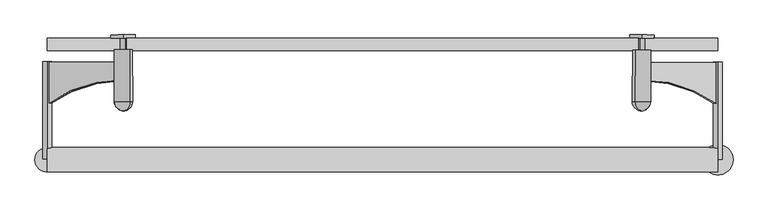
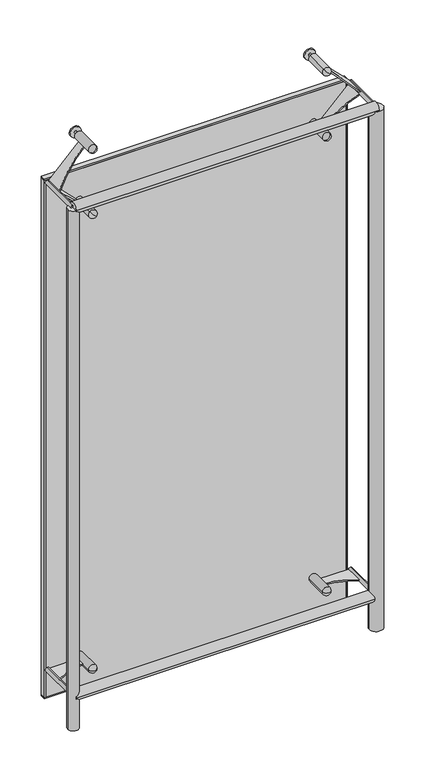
"""IFC4 building model written with IfcOpenShell, lengths in millimetres: plate geometry, FLATNING_TRYOUT : FLATNING_TRYOUT."""

from ifc_helpers import new_model, si_unit, point, frame, frame_2d, origin, origin_with_axes, place, context, project, spatial, polyline, circle_curve, ellipse_curve, trimmed, segment, composite_curve, outline, extrude, source, transform, mapped, element, save
from ifc_brep_helpers import plane_surface, cylinder_surface, revolved_surface, advanced_brep


def plate_331b9018(model_context):
    return source(origin(), model_context, "Body", "SolidModel", [
        extrude(outline(composite_curve([segment(polyline([(29.9999999, 0.0), (30.0, -177.0), (-40.0000001, -177.0)]), True, "CONTINUOUS"), segment(trimmed(circle_curve(frame_2d((-375.1980994, -8.2292431)), 375.2883348), [point((-40.0000001, -177.0))], [point((0.0, 0.0))], True, "CARTESIAN"), True, "CONTINUOUS"), segment(polyline([(0.0, 0.0), (29.9999999, 0.0)]), True, "CONTINUOUS")], self_intersect=False)), frame((424.1205053, -69.2674093, 2123.3901333), z_axis=(0.7070974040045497, -0.003641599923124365, 0.7071067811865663), x_axis=(0.005150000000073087, 0.9999867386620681, 0.0)), (0.0, 0.0, 1.0), 5.0),
        advanced_brep(
        [(426.2487488, 0.7225584, 2125.1579003), (429.7842358, 0.7043504, 2121.6223664), (422.7132618, 0.7407664, 2128.6934342), (415.5392877, -19.2225524, 2135.764502), (436.7522098, -19.3318004, 2114.5512986), (436.3144598, -104.3306732, 2114.5512986), (415.1015377, -104.2214252, 2135.764502), (422.6102618, -19.2589684, 2128.6934342), (429.6812358, -19.2953844, 2121.6223664), (425.6307488, -119.2758503, 2125.1579003)],
        [
            (0, 1),
            (1, 2, circle_curve(frame((426.2487488, 0.7225584, 2125.1579003), z_axis=(0.005150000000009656, 0.9999867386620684, 0.0), x_axis=(0.7070974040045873, -0.0036415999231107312, -0.7071067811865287)), 5.0)),
            (2, 0),
            (2, 1, circle_curve(frame((426.2487488, 0.7225584, 2125.1579003), z_axis=(0.005150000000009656, 0.9999867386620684, 0.0), x_axis=(0.7070974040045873, -0.0036415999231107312, -0.7071067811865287)), 5.0)),
            (3, 4, circle_curve(frame((426.1457488, -19.2771764, 2125.1579003), z_axis=(-0.005150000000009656, -0.9999867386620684, 0.0), x_axis=(0.7070974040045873, -0.0036415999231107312, -0.7071067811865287)), 15.0)),
            (4, 5),
            (5, 6, circle_curve(frame((425.7079988, -104.2760492, 2125.1579003), z_axis=(0.005150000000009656, 0.9999867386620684, 0.0), x_axis=(0.7070974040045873, -0.0036415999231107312, -0.7071067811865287)), 15.0)),
            (6, 3),
            (4, 3, circle_curve(frame((426.1457488, -19.2771764, 2125.1579003), z_axis=(-0.005150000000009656, -0.9999867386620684, 0.0), x_axis=(0.7070974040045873, -0.0036415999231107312, -0.7071067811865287)), 15.0)),
            (6, 5, circle_curve(frame((425.7079988, -104.2760492, 2125.1579003), z_axis=(0.005150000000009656, 0.9999867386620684, 0.0), x_axis=(0.7070974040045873, -0.0036415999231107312, -0.7071067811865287)), 15.0)),
            (7, 8, circle_curve(frame((426.1457488, -19.2771764, 2125.1579003), z_axis=(-0.005150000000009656, -0.9999867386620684, 0.0), x_axis=(0.7070974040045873, -0.0036415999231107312, -0.7071067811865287)), 5.0)),
            (8, 4),
            (3, 7),
            (8, 7, circle_curve(frame((426.1457488, -19.2771764, 2125.1579003), z_axis=(-0.005150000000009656, -0.9999867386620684, 0.0), x_axis=(0.7070974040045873, -0.0036415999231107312, -0.7071067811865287)), 5.0)),
            (1, 8),
            (7, 2),
            (5, 9, circle_curve(frame((425.7079988, -104.2760492, 2125.1579003), z_axis=(-0.7070974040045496, 0.0036415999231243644, -0.7071067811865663), x_axis=(0.7070974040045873, -0.0036415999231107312, -0.7071067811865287)), 15.0)),
            (9, 6, circle_curve(frame((425.7079988, -104.2760492, 2125.1579003), z_axis=(-0.7070974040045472, 0.0036415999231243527, -0.7071067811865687), x_axis=(-0.7070974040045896, 0.003641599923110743, 0.7071067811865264)), 15.0)),
        ],
        [
            plane_surface(frame((426.2487488, 0.7225584, 2125.1579003), z_axis=(0.005150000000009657, 0.9999867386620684, 0.0), x_axis=(0.7070974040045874, -0.0036415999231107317, -0.7071067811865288))),
            cylinder_surface(frame((428.9782488, 530.7155299, 2125.1579003), z_axis=(0.005150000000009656, 0.9999867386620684, 0.0), x_axis=(0.7070974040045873, -0.0036415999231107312, -0.7071067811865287)), 15.0),
            plane_surface(frame((426.1457488, -19.2771764, 2125.1579003), z_axis=(0.005150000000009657, 0.9999867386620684, 0.0), x_axis=(0.7070974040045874, -0.0036415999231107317, -0.7071067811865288))),
            cylinder_surface(frame((428.9782488, 530.7155299, 2125.1579003), z_axis=(0.005150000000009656, 0.9999867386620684, 0.0), x_axis=(0.7070974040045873, -0.0036415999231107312, -0.7071067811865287)), 5.0),
            revolved_surface(trimmed(ellipse_curve(frame((425.7079988, -104.2760492, 2125.1579003), z_axis=(0.7070974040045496, -0.0036415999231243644, 0.7071067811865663), x_axis=(0.7070974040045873, -0.0036415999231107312, -0.7071067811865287)), 15.0, 15.0), [point((425.6307488, -119.2758503, 2125.1579003))], [point((436.3144598, -104.3306732, 2114.5512986))], True, "CARTESIAN"), (428.9782488, 530.7155299, 2125.1579003), (0.005150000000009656, 0.9999867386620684, 0.0)),
        ],
        [
            (0, [[1, 2, 3]]),
            (0, [[-3, 4, -1]]),
            (1, [[5, 6, 7, 8]]),
            (1, [[9, -8, 10, -6]]),
            (2, [[11, 12, -5, 13]]),
            (2, [[14, -13, -9, -12]]),
            (3, [[-2, 15, -11, 16]]),
            (3, [[-4, -16, -14, -15]]),
            (4, [[-7, 17, 18]]),
            (4, [[-10, -18, -17]]),
        ],
    ),
        extrude(outline(composite_curve([segment(polyline([(-30.0, 0.0), (0.0, 0.0)]), True, "CONTINUOUS"), segment(trimmed(circle_curve(frame_2d((375.1980994, -8.2292431)), 375.2883348), [point((0.0, 0.0))], [point((40.0, -177.0))], True, "CARTESIAN"), True, "CONTINUOUS"), segment(polyline([(40.0, -177.0), (-30.0, -177.0), (-30.0, 0.0)]), True, "CONTINUOUS")], self_intersect=False)), frame((-424.1175857, -68.8109905, 2123.3901333), z_axis=(-0.7070974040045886, -0.003641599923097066, 0.7071067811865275), x_axis=(0.005150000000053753, -0.9999867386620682, 0.0)), (0.0, 0.0, 1.0), 5.0),
        advanced_brep(
        [(-426.2458292, 1.1789772, 2125.1579003), (-429.7813162, 1.1607692, 2121.6223664), (-422.7103422, 1.1971852, 2128.6934342), (-415.5363681, -18.7661336, 2135.764502), (-436.7492903, -18.8753816, 2114.5512986), (-436.3115403, -103.8742543, 2114.5512986), (-415.0986181, -103.7650063, 2135.764502), (-422.6073422, -18.8025496, 2128.6934342), (-429.6783162, -18.8389656, 2121.6223664), (-425.6278292, -118.8194314, 2125.1579003)],
        [
            (0, 1),
            (1, 2, circle_curve(frame((-426.2458292, 1.1789772, 2125.1579003), z_axis=(-0.005149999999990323, 0.9999867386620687, 0.0), x_axis=(-0.7070974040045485, -0.0036415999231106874, -0.7071067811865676)), 5.0)),
            (2, 0),
            (2, 1, circle_curve(frame((-426.2458292, 1.1789772, 2125.1579003), z_axis=(-0.005149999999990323, 0.9999867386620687, 0.0), x_axis=(-0.7070974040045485, -0.0036415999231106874, -0.7071067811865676)), 5.0)),
            (3, 4, circle_curve(frame((-426.1428292, -18.8207576, 2125.1579003), z_axis=(0.005149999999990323, -0.9999867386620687, 0.0), x_axis=(-0.7070974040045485, -0.0036415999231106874, -0.7071067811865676)), 15.0)),
            (4, 5),
            (5, 6, circle_curve(frame((-425.7050792, -103.8196303, 2125.1579003), z_axis=(-0.005149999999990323, 0.9999867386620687, 0.0), x_axis=(-0.7070974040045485, -0.0036415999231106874, -0.7071067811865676)), 15.0)),
            (6, 3),
            (4, 3, circle_curve(frame((-426.1428292, -18.8207576, 2125.1579003), z_axis=(0.005149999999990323, -0.9999867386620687, 0.0), x_axis=(-0.7070974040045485, -0.0036415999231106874, -0.7071067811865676)), 15.0)),
            (6, 5, circle_curve(frame((-425.7050792, -103.8196303, 2125.1579003), z_axis=(-0.005149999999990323, 0.9999867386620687, 0.0), x_axis=(-0.7070974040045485, -0.0036415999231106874, -0.7071067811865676)), 15.0)),
            (7, 8, circle_curve(frame((-426.1428292, -18.8207576, 2125.1579003), z_axis=(0.005149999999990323, -0.9999867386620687, 0.0), x_axis=(-0.7070974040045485, -0.0036415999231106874, -0.7071067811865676)), 5.0)),
            (8, 4),
            (3, 7),
            (8, 7, circle_curve(frame((-426.1428292, -18.8207576, 2125.1579003), z_axis=(0.005149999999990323, -0.9999867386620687, 0.0), x_axis=(-0.7070974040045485, -0.0036415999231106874, -0.7071067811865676)), 5.0)),
            (1, 8),
            (7, 2),
            (5, 9, circle_curve(frame((-425.7050792, -103.8196303, 2125.1579003), z_axis=(-0.7070974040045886, -0.003641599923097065, 0.7071067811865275), x_axis=(-0.7070974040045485, -0.0036415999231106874, -0.7071067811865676)), 15.0)),
            (9, 6, circle_curve(frame((-425.7050792, -103.8196303, 2125.1579003), z_axis=(-0.707097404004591, -0.0036415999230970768, 0.7071067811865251), x_axis=(0.7070974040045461, 0.0036415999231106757, 0.7071067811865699)), 15.0)),
        ],
        [
            plane_surface(frame((-426.2458292, 1.1789772, 2125.1579003), z_axis=(-0.005149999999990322, 0.9999867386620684, 0.0), x_axis=(-0.7070974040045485, -0.0036415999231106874, -0.7071067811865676))),
            cylinder_surface(frame((-428.9753292, 531.1719487, 2125.1579003), z_axis=(-0.005149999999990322, 0.9999867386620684, 0.0), x_axis=(-0.7070974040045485, -0.0036415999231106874, -0.7071067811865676)), 15.0),
            plane_surface(frame((-426.1428292, -18.8207576, 2125.1579003), z_axis=(-0.005149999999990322, 0.9999867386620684, 0.0), x_axis=(-0.7070974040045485, -0.0036415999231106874, -0.7071067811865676))),
            cylinder_surface(frame((-428.9753292, 531.1719487, 2125.1579003), z_axis=(-0.005149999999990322, 0.9999867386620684, 0.0), x_axis=(-0.7070974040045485, -0.0036415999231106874, -0.7071067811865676)), 5.0),
            revolved_surface(trimmed(ellipse_curve(frame((-425.7050792, -103.8196303, 2125.1579003), z_axis=(0.7070974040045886, 0.003641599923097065, -0.7071067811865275), x_axis=(-0.7070974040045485, -0.0036415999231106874, -0.7071067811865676)), 15.0, 15.0), [point((-425.6278292, -118.8194314, 2125.1579003))], [point((-436.3115403, -103.8742543, 2114.5512986))], True, "CARTESIAN"), (-428.9753292, 531.1719487, 2125.1579003), (-0.005149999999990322, 0.9999867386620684, 0.0)),
        ],
        [
            (0, [[1, 2, 3]]),
            (0, [[-3, 4, -1]]),
            (1, [[5, 6, 7, 8]]),
            (1, [[9, -8, 10, -6]]),
            (2, [[11, 12, -5, 13]]),
            (2, [[14, -13, -9, -12]]),
            (3, [[-2, 15, -11, 16]]),
            (3, [[-4, -16, -14, -15]]),
            (4, [[-7, 17, 18]]),
            (4, [[-10, -18, -17]]),
        ],
    ),
        extrude(outline(composite_curve([segment(polyline([(30.0, 0.0), (30.0, -176.9999999), (-40.0, -176.9999999)]), True, "CONTINUOUS"), segment(trimmed(circle_curve(frame_2d((-375.1980994, -8.2292431)), 375.2883348), [point((-40.0, -176.9999999))], [point((0.0, 0.0))], True, "CARTESIAN"), True, "CONTINUOUS"), segment(polyline([(0.0, 0.0), (30.0, 0.0)]), True, "CONTINUOUS")], self_intersect=False)), frame((427.6558312, -69.2856165, 1873.0743328), z_axis=(-0.7070974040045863, 0.0036415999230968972, 0.7071067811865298), x_axis=(0.005150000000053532, 0.9999867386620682, 0.0)), (0.0, 0.0, 1.0), 5.0),
        advanced_brep(
        [(426.2485877, 0.7225592, 1874.8420997), (429.7840747, 0.7043512, 1878.3776336), (422.7131006, 0.7407672, 1871.3065658), (415.5391266, -19.2225516, 1864.235498), (436.7520487, -19.3317996, 1885.4487014), (436.3142987, -104.3306723, 1885.4487014), (415.1013766, -104.2214243, 1864.235498), (422.6101006, -19.2589676, 1871.3065658), (429.6810747, -19.2953836, 1878.3776336), (425.6305877, -119.2758494, 1874.8420997)],
        [
            (0, 1),
            (1, 2, circle_curve(frame((426.2485877, 0.7225592, 1874.8420997), z_axis=(0.005149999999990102, 0.9999867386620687, 0.0), x_axis=(0.7070974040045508, -0.0036415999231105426, 0.7071067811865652)), 5.0)),
            (2, 0),
            (2, 1, circle_curve(frame((426.2485877, 0.7225592, 1874.8420997), z_axis=(0.005149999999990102, 0.9999867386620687, 0.0), x_axis=(0.7070974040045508, -0.0036415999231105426, 0.7071067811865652)), 5.0)),
            (3, 4, circle_curve(frame((426.1455877, -19.2771756, 1874.8420997), z_axis=(-0.005149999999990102, -0.9999867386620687, 0.0), x_axis=(0.7070974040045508, -0.0036415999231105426, 0.7071067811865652)), 15.0)),
            (4, 5),
            (5, 6, circle_curve(frame((425.7078377, -104.2760483, 1874.8420997), z_axis=(0.005149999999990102, 0.9999867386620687, 0.0), x_axis=(0.7070974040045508, -0.0036415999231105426, 0.7071067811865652)), 15.0)),
            (6, 3),
            (4, 3, circle_curve(frame((426.1455877, -19.2771756, 1874.8420997), z_axis=(-0.005149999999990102, -0.9999867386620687, 0.0), x_axis=(0.7070974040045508, -0.0036415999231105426, 0.7071067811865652)), 15.0)),
            (6, 5, circle_curve(frame((425.7078377, -104.2760483, 1874.8420997), z_axis=(0.005149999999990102, 0.9999867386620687, 0.0), x_axis=(0.7070974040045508, -0.0036415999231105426, 0.7071067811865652)), 15.0)),
            (7, 8, circle_curve(frame((426.1455877, -19.2771756, 1874.8420997), z_axis=(-0.005149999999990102, -0.9999867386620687, 0.0), x_axis=(0.7070974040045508, -0.0036415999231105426, 0.7071067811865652)), 5.0)),
            (8, 4),
            (3, 7),
            (8, 7, circle_curve(frame((426.1455877, -19.2771756, 1874.8420997), z_axis=(-0.005149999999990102, -0.9999867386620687, 0.0), x_axis=(0.7070974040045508, -0.0036415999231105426, 0.7071067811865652)), 5.0)),
            (1, 8),
            (7, 2),
            (5, 9, circle_curve(frame((425.7078377, -104.2760483, 1874.8420997), z_axis=(0.7070974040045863, -0.0036415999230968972, -0.7071067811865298), x_axis=(0.7070974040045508, -0.0036415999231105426, 0.7071067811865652)), 15.0)),
            (9, 6, circle_curve(frame((425.7078377, -104.2760483, 1874.8420997), z_axis=(0.7070974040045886, -0.003641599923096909, -0.7071067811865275), x_axis=(-0.7070974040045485, 0.003641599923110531, -0.7071067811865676)), 15.0)),
        ],
        [
            plane_surface(frame((426.2485877, 0.7225592, 1874.8420997), z_axis=(0.005149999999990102, 0.9999867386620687, 0.0), x_axis=(0.7070974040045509, -0.003641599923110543, 0.7071067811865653))),
            cylinder_surface(frame((428.9780877, 530.7155307, 1874.8420997), z_axis=(0.005149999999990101, 0.9999867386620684, 0.0), x_axis=(0.7070974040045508, -0.0036415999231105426, 0.7071067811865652)), 15.0),
            plane_surface(frame((426.1455877, -19.2771756, 1874.8420997), z_axis=(0.005149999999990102, 0.9999867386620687, 0.0), x_axis=(0.7070974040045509, -0.003641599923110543, 0.7071067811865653))),
            cylinder_surface(frame((428.9780877, 530.7155307, 1874.8420997), z_axis=(0.005149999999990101, 0.9999867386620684, 0.0), x_axis=(0.7070974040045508, -0.0036415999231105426, 0.7071067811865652)), 5.0),
            revolved_surface(trimmed(ellipse_curve(frame((425.7078377, -104.2760483, 1874.8420997), z_axis=(-0.7070974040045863, 0.0036415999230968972, 0.7071067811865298), x_axis=(0.7070974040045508, -0.0036415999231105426, 0.7071067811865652)), 15.0, 15.0), [point((425.6305877, -119.2758494, 1874.8420997))], [point((436.3142987, -104.3306723, 1885.4487014))], True, "CARTESIAN"), (428.9780877, 530.7155307, 1874.8420997), (0.005149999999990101, 0.9999867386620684, 0.0)),
        ],
        [
            (0, [[1, 2, 3]]),
            (0, [[-3, 4, -1]]),
            (1, [[5, 6, 7, 8]]),
            (1, [[9, -8, 10, -6]]),
            (2, [[11, 12, -5, 13]]),
            (2, [[14, -13, -9, -12]]),
            (3, [[-2, 15, -11, 16]]),
            (3, [[-4, -16, -14, -15]]),
            (4, [[-7, 17, 18]]),
            (4, [[-10, -18, -17]]),
        ],
    ),
        extrude(outline(composite_curve([segment(polyline([(30.0, 0.0), (0.0, 0.0)]), True, "CONTINUOUS"), segment(trimmed(circle_curve(frame_2d((-375.1980994, 8.2292431)), 375.2883348), [point((0.0, 0.0))], [point((-40.0, 176.9999999))], True, "CARTESIAN"), True, "CONTINUOUS"), segment(polyline([(-40.0, 176.9999999), (30.0, 176.9999999), (30.0, 0.0)]), True, "CONTINUOUS")], self_intersect=False)), frame((-427.6558312, -69.2856165, 1873.0743328), z_axis=(0.7070974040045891, 0.003641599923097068, 0.707106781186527), x_axis=(-0.005150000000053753, 0.9999867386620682, 0.0)), (0.0, 0.0, 1.0), 5.0),
        advanced_brep(
        [(-426.2485877, 0.7225592, 1874.8420997), (-422.7131006, 0.7407672, 1871.3065658), (-429.7840747, 0.7043512, 1878.3776336), (-415.5391266, -19.2225516, 1864.235498), (-415.1013766, -104.2214243, 1864.235498), (-436.3142987, -104.3306723, 1885.4487014), (-436.7520487, -19.3317996, 1885.4487014), (-422.6101006, -19.2589676, 1871.3065658), (-429.6810747, -19.2953836, 1878.3776336), (-425.6305877, -119.2758494, 1874.8420997)],
        [
            (0, 1),
            (1, 2, circle_curve(frame((-426.2485877, 0.7225592, 1874.8420997), z_axis=(-0.005149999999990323, 0.9999867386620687, 0.0), x_axis=(-0.707097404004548, -0.003641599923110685, 0.707106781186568)), 5.0)),
            (2, 0),
            (2, 1, circle_curve(frame((-426.2485877, 0.7225592, 1874.8420997), z_axis=(-0.005149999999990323, 0.9999867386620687, 0.0), x_axis=(-0.707097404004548, -0.003641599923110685, 0.707106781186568)), 5.0)),
            (3, 4),
            (4, 5, circle_curve(frame((-425.7078377, -104.2760483, 1874.8420997), z_axis=(-0.005149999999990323, 0.9999867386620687, 0.0), x_axis=(-0.707097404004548, -0.003641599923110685, 0.707106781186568)), 15.0)),
            (5, 6),
            (6, 3, circle_curve(frame((-426.1455877, -19.2771756, 1874.8420997), z_axis=(0.005149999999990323, -0.9999867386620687, 0.0), x_axis=(-0.707097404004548, -0.003641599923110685, 0.707106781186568)), 15.0)),
            (5, 4, circle_curve(frame((-425.7078377, -104.2760483, 1874.8420997), z_axis=(-0.005149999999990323, 0.9999867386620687, 0.0), x_axis=(-0.707097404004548, -0.003641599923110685, 0.707106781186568)), 15.0)),
            (3, 6, circle_curve(frame((-426.1455877, -19.2771756, 1874.8420997), z_axis=(0.005149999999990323, -0.9999867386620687, 0.0), x_axis=(-0.707097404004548, -0.003641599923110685, 0.707106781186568)), 15.0)),
            (7, 3),
            (6, 8),
            (8, 7, circle_curve(frame((-426.1455877, -19.2771756, 1874.8420997), z_axis=(0.005149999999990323, -0.9999867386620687, 0.0), x_axis=(-0.707097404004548, -0.003641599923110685, 0.707106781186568)), 5.0)),
            (7, 8, circle_curve(frame((-426.1455877, -19.2771756, 1874.8420997), z_axis=(0.005149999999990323, -0.9999867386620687, 0.0), x_axis=(-0.707097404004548, -0.003641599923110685, 0.707106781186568)), 5.0)),
            (1, 7),
            (8, 2),
            (4, 9, circle_curve(frame((-425.7078377, -104.2760483, 1874.8420997), z_axis=(-0.7070974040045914, -0.0036415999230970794, -0.7071067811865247), x_axis=(0.7070974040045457, 0.003641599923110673, -0.7071067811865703)), 15.0)),
            (9, 5, circle_curve(frame((-425.7078377, -104.2760483, 1874.8420997), z_axis=(-0.7070974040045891, -0.0036415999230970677, -0.707106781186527), x_axis=(-0.707097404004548, -0.003641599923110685, 0.707106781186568)), 15.0)),
        ],
        [
            plane_surface(frame((-426.2485877, 0.7225592, 1874.8420997), z_axis=(-0.005149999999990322, 0.9999867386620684, 0.0), x_axis=(-0.707097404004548, -0.003641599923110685, 0.707106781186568))),
            cylinder_surface(frame((-428.9780877, 530.7155307, 1874.8420997), z_axis=(-0.005149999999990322, 0.9999867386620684, 0.0), x_axis=(-0.707097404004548, -0.003641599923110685, 0.707106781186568)), 15.0),
            plane_surface(frame((-426.1455877, -19.2771756, 1874.8420997), z_axis=(-0.005149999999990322, 0.9999867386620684, 0.0), x_axis=(-0.707097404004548, -0.003641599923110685, 0.707106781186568))),
            cylinder_surface(frame((-428.9780877, 530.7155307, 1874.8420997), z_axis=(-0.005149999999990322, 0.9999867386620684, 0.0), x_axis=(-0.707097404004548, -0.003641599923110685, 0.707106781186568)), 5.0),
            revolved_surface(trimmed(ellipse_curve(frame((-425.7078377, -104.2760483, 1874.8420997), z_axis=(-0.7070974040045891, -0.0036415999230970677, -0.707106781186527), x_axis=(-0.707097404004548, -0.003641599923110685, 0.707106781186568)), 15.0, 15.0), [point((-425.6305877, -119.2758494, 1874.8420997))], [point((-436.3142987, -104.3306723, 1885.4487014))], True, "CARTESIAN"), (-428.9780877, 530.7155307, 1874.8420997), (-0.005149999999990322, 0.9999867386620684, 0.0)),
        ],
        [
            (0, [[1, 2, 3]]),
            (0, [[-3, 4, -1]]),
            (1, [[5, 6, 7, 8]]),
            (1, [[-7, 9, -5, 10]]),
            (2, [[11, -8, 12, 13]]),
            (2, [[-12, -10, -11, 14]]),
            (3, [[15, -13, 16, -2]]),
            (3, [[-16, -14, -15, -4]]),
            (4, [[17, 18, -6]]),
            (4, [[-18, -17, -9]]),
        ],
    ),
        extrude(outline(composite_curve([segment(polyline([(426.2004859, -38.8213197), (551.1988282, -39.4650697), (550.8383282, -109.4641414)]), True, "CONTINUOUS"), segment(trimmed(circle_curve(frame_2d((420.6636817, -297.2518988)), 228.4943772), [point((550.8383282, -109.4641414))], [point((426.0459859, -68.8209219))], True, "CARTESIAN"), True, "CONTINUOUS"), segment(polyline([(426.0459859, -68.8209219), (426.2004859, -38.8213197)]), True, "CONTINUOUS")], self_intersect=False)), frame((0.0, 0.0, 122.5), z_axis=(0.0, 0.0, 1.0), x_axis=(1.0, 0.0, 0.0)), (0.0, 0.0, 1.0), 5.0),
        advanced_brep(
        [(426.4064859, 1.1781498, 125.0), (431.4064196, 1.1523998, 125.0), (421.4065522, 1.2038998, 125.0), (411.3036848, -18.7443349, 125.0), (441.303287, -18.8988349, 125.0), (440.865537, -103.8977077, 125.0), (410.8659348, -103.7432077, 125.0), (421.3035522, -18.7958349, 125.0), (431.3034196, -18.8473349, 125.0), (425.7884859, -118.8202588, 125.0)],
        [
            (0, 1),
            (1, 2, circle_curve(frame((426.4064859, 1.1781498, 125.0), z_axis=(0.005149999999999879, 0.9999867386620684, 0.0), x_axis=(0.9999867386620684, -0.005149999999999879, 0.0)), 5.0)),
            (2, 0),
            (2, 1, circle_curve(frame((426.4064859, 1.1781498, 125.0), z_axis=(0.005149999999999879, 0.9999867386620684, 0.0), x_axis=(0.9999867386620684, -0.005149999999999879, 0.0)), 5.0)),
            (3, 4, circle_curve(frame((426.3034859, -18.8215849, 125.0), z_axis=(-0.005149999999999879, -0.9999867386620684, 0.0), x_axis=(0.9999867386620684, -0.005149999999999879, 0.0)), 15.0)),
            (4, 5),
            (5, 6, circle_curve(frame((425.8657359, -103.8204577, 125.0), z_axis=(0.005149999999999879, 0.9999867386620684, 0.0), x_axis=(0.9999867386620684, -0.005149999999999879, 0.0)), 15.0)),
            (6, 3),
            (4, 3, circle_curve(frame((426.3034859, -18.8215849, 125.0), z_axis=(-0.005149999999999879, -0.9999867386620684, 0.0), x_axis=(0.9999867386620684, -0.005149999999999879, 0.0)), 15.0)),
            (6, 5, circle_curve(frame((425.8657359, -103.8204577, 125.0), z_axis=(0.005149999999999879, 0.9999867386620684, 0.0), x_axis=(0.9999867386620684, -0.005149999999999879, 0.0)), 15.0)),
            (7, 8, circle_curve(frame((426.3034859, -18.8215849, 125.0), z_axis=(-0.005149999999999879, -0.9999867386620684, 0.0), x_axis=(0.9999867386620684, -0.005149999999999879, 0.0)), 5.0)),
            (8, 4),
            (3, 7),
            (8, 7, circle_curve(frame((426.3034859, -18.8215849, 125.0), z_axis=(-0.005149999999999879, -0.9999867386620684, 0.0), x_axis=(0.9999867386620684, -0.005149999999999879, 0.0)), 5.0)),
            (1, 8),
            (7, 2),
            (5, 9, circle_curve(frame((425.8657359, -103.8204577, 125.0), z_axis=(0.0, 0.0, -1.0), x_axis=(0.9999867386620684, -0.005149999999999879, 0.0)), 15.0)),
            (9, 6, circle_curve(frame((425.8657359, -103.8204577, 125.0), z_axis=(0.0, 0.0, -1.0), x_axis=(-0.9999867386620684, 0.005149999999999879, 0.0)), 15.0)),
        ],
        [
            plane_surface(frame((426.4064859, 1.1781498, 125.0), z_axis=(0.005149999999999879, 0.9999867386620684, 0.0), x_axis=(0.9999867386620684, -0.005149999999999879, 0.0))),
            cylinder_surface(frame((427.7197359, 256.1747682, 125.0), z_axis=(0.005149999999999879, 0.9999867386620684, 0.0), x_axis=(0.9999867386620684, -0.005149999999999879, 0.0)), 15.0),
            plane_surface(frame((426.3034859, -18.8215849, 125.0), z_axis=(0.005149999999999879, 0.9999867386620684, 0.0), x_axis=(0.9999867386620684, -0.005149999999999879, 0.0))),
            cylinder_surface(frame((427.7197359, 256.1747682, 125.0), z_axis=(0.005149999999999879, 0.9999867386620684, 0.0), x_axis=(0.9999867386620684, -0.005149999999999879, 0.0)), 5.0),
            revolved_surface(trimmed(ellipse_curve(frame((425.8657359, -103.8204577, 125.0), z_axis=(0.0, 0.0, 1.0), x_axis=(0.9999867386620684, -0.005149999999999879, 0.0)), 15.0, 15.0), [point((425.7884859, -118.8202588, 125.0))], [point((440.865537, -103.8977077, 125.0))], True, "CARTESIAN"), (427.7197359, 256.1747682, 125.0), (0.005149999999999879, 0.9999867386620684, 0.0)),
        ],
        [
            (0, [[1, 2, 3]]),
            (0, [[-3, 4, -1]]),
            (1, [[5, 6, 7, 8]]),
            (1, [[9, -8, 10, -6]]),
            (2, [[11, 12, -5, 13]]),
            (2, [[14, -13, -9, -12]]),
            (3, [[-2, 15, -11, 16]]),
            (3, [[-4, -16, -14, -15]]),
            (4, [[-7, 17, 18]]),
            (4, [[-10, -18, -17]]),
        ],
    ),
        extrude(outline(composite_curve([segment(polyline([(-426.2004859, -38.8213197), (-426.0459859, -68.8209219)]), True, "CONTINUOUS"), segment(trimmed(circle_curve(frame_2d((-420.6636817, -297.2518988)), 228.4943772), [point((-426.0459859, -68.8209219))], [point((-550.8383282, -109.4641414))], True, "CARTESIAN"), True, "CONTINUOUS"), segment(polyline([(-550.8383282, -109.4641414), (-551.1988282, -39.4650697), (-426.2004859, -38.8213197)]), True, "CONTINUOUS")], self_intersect=False)), frame((0.0, 0.0, 122.5), z_axis=(0.0, 0.0, 1.0), x_axis=(1.0, 0.0, 0.0)), (0.0, 0.0, 1.0), 5.0),
        advanced_brep(
        [(-426.4064859, 1.1781498, 125.0), (-431.4064196, 1.1523998, 125.0), (-421.4065522, 1.2038998, 125.0), (-411.3036848, -18.7443349, 125.0), (-441.303287, -18.8988349, 125.0), (-440.865537, -103.8977077, 125.0), (-410.8659348, -103.7432077, 125.0), (-421.3035522, -18.7958349, 125.0), (-431.3034196, -18.8473349, 125.0), (-425.7884859, -118.8202588, 125.0)],
        [
            (0, 1),
            (1, 2, circle_curve(frame((-426.4064859, 1.1781498, 125.0), z_axis=(-0.0051500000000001, 0.9999867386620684, 0.0), x_axis=(-0.9999867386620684, -0.0051500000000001, 0.0)), 5.0)),
            (2, 0),
            (2, 1, circle_curve(frame((-426.4064859, 1.1781498, 125.0), z_axis=(-0.0051500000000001, 0.9999867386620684, 0.0), x_axis=(-0.9999867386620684, -0.0051500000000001, 0.0)), 5.0)),
            (3, 4, circle_curve(frame((-426.3034859, -18.8215849, 125.0), z_axis=(0.0051500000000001, -0.9999867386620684, 0.0), x_axis=(-0.9999867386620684, -0.0051500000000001, 0.0)), 15.0)),
            (4, 5),
            (5, 6, circle_curve(frame((-425.8657359, -103.8204577, 125.0), z_axis=(-0.0051500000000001, 0.9999867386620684, 0.0), x_axis=(-0.9999867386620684, -0.0051500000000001, 0.0)), 15.0)),
            (6, 3),
            (4, 3, circle_curve(frame((-426.3034859, -18.8215849, 125.0), z_axis=(0.0051500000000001, -0.9999867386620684, 0.0), x_axis=(-0.9999867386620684, -0.0051500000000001, 0.0)), 15.0)),
            (6, 5, circle_curve(frame((-425.8657359, -103.8204577, 125.0), z_axis=(-0.0051500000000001, 0.9999867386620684, 0.0), x_axis=(-0.9999867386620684, -0.0051500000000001, 0.0)), 15.0)),
            (7, 8, circle_curve(frame((-426.3034859, -18.8215849, 125.0), z_axis=(0.0051500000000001, -0.9999867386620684, 0.0), x_axis=(-0.9999867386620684, -0.0051500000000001, 0.0)), 5.0)),
            (8, 4),
            (3, 7),
            (8, 7, circle_curve(frame((-426.3034859, -18.8215849, 125.0), z_axis=(0.0051500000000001, -0.9999867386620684, 0.0), x_axis=(-0.9999867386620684, -0.0051500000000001, 0.0)), 5.0)),
            (1, 8),
            (7, 2),
            (5, 9, circle_curve(frame((-425.8657359, -103.8204577, 125.0), z_axis=(0.0, 0.0, 1.0), x_axis=(-0.9999867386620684, -0.0051500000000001, 0.0)), 15.0)),
            (9, 6, circle_curve(frame((-425.8657359, -103.8204577, 125.0), z_axis=(0.0, 0.0, 1.0), x_axis=(0.9999867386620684, 0.0051500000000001, 0.0)), 15.0)),
        ],
        [
            plane_surface(frame((-426.4064859, 1.1781498, 125.0), z_axis=(-0.0051500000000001, 0.9999867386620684, 0.0), x_axis=(-0.9999867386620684, -0.0051500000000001, 0.0))),
            cylinder_surface(frame((-427.7197359, 256.1747682, 125.0), z_axis=(-0.0051500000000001, 0.9999867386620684, 0.0), x_axis=(-0.9999867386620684, -0.0051500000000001, 0.0)), 15.0),
            plane_surface(frame((-426.3034859, -18.8215849, 125.0), z_axis=(-0.0051500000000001, 0.9999867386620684, 0.0), x_axis=(-0.9999867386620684, -0.0051500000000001, 0.0))),
            cylinder_surface(frame((-427.7197359, 256.1747682, 125.0), z_axis=(-0.0051500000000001, 0.9999867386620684, 0.0), x_axis=(-0.9999867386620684, -0.0051500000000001, 0.0)), 5.0),
            revolved_surface(trimmed(ellipse_curve(frame((-425.8657359, -103.8204577, 125.0), z_axis=(0.0, 0.0, -1.0), x_axis=(-0.9999867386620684, -0.0051500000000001, 0.0)), 15.0, 15.0), [point((-425.7884859, -118.8202588, 125.0))], [point((-440.865537, -103.8977077, 125.0))], True, "CARTESIAN"), (-427.7197359, 256.1747682, 125.0), (-0.0051500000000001, 0.9999867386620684, 0.0)),
        ],
        [
            (0, [[1, 2, 3]]),
            (0, [[-3, 4, -1]]),
            (1, [[5, 6, 7, 8]]),
            (1, [[9, -8, 10, -6]]),
            (2, [[11, 12, -5, 13]]),
            (2, [[14, -13, -9, -12]]),
            (3, [[-2, 15, -11, 16]]),
            (3, [[-4, -16, -14, -15]]),
            (4, [[-7, 17, 18]]),
            (4, [[-10, -18, -17]]),
        ],
    ),
        extrude(outline(polyline([(551.4048282, -20.0), (-551.4048282, -20.0), (-551.4048282, 0.0), (551.4048282, 0.0), (551.4048282, -20.0)])), origin_with_axes(), (0.0, 0.0, 1.0), 5.0),
        extrude(outline(polyline([(551.4048282, -20.0), (-551.4048282, -20.0), (-551.4048282, 0.0), (551.4048282, 0.0), (551.4048282, -20.0)])), frame((0.0, 0.0, 1995.0), z_axis=(0.0, 0.0, 1.0), x_axis=(1.0, 0.0, 0.0)), (0.0, 0.0, 1.0), 5.0),
        extrude(outline(polyline([(546.4048282, 0.0781286), (551.4048281, 0.0781286), (551.4048281, -20.0), (546.4048282, -20.0), (546.4048282, 0.0781286)])), frame((0.0, 0.0, 5.0), z_axis=(0.0, 0.0, 1.0), x_axis=(1.0, 0.0, 0.0)), (0.0, 0.0, 1.0), 1990.0),
        extrude(outline(polyline([(-546.4048282, 0.5343998), (-546.4048282, -20.0), (-551.4048282, -20.0), (-551.4048282, 0.5343998), (-546.4048282, 0.5343998)])), frame((0.0, 0.0, 5.0), z_axis=(0.0, 0.0, 1.0), x_axis=(1.0, 0.0, 0.0)), (0.0, 0.0, 1.0), 1990.0),
        extrude(outline(polyline([(546.4048282, -20.0), (-546.4048282, -20.0), (-546.4048282, 0.0), (546.4048282, 0.0), (546.4048282, -20.0)])), frame((0.0, 0.0, 5.0), z_axis=(0.0, 0.0, 1.0), x_axis=(1.0, 0.0, 0.0)), (0.0, 0.0, 1.0), 1990.0),
        extrude(outline(composite_curve([segment(trimmed(circle_curve(frame_2d((-200.0, 2000.0)), 20.0), [point((-220.0, 2000.0))], [point((-180.0, 2000.0))], False, "CARTESIAN"), True, "CONTINUOUS"), segment(trimmed(circle_curve(frame_2d((-200.0, 2000.0)), 20.0), [point((-180.0, 2000.0))], [point((-220.0, 2000.0))], False, "CARTESIAN"), True, "CONTINUOUS")], self_intersect=False)), frame((-551.4048282, 0.0, 0.0), z_axis=(1.0, 0.0, 0.0), x_axis=(0.0, 1.0, 0.0)), (0.0, 0.0, 1.0), 1102.8096563),
        extrude(outline(composite_curve([segment(trimmed(circle_curve(frame_2d((-200.0, 125.0)), 20.0), [point((-220.0, 125.0))], [point((-180.0, 125.0))], False, "CARTESIAN"), True, "CONTINUOUS"), segment(trimmed(circle_curve(frame_2d((-200.0, 125.0)), 20.0), [point((-180.0, 125.0))], [point((-220.0, 125.0))], False, "CARTESIAN"), True, "CONTINUOUS")], self_intersect=False)), frame((-551.4048282, 0.0, 0.0), z_axis=(1.0, 0.0, 0.0), x_axis=(0.0, 1.0, 0.0)), (0.0, 0.0, 1.0), 1102.8096563),
        extrude(outline(composite_curve([segment(trimmed(circle_curve(frame_2d((2000.0, -551.4048282)), 7.5), [point((1992.5, -551.4048282))], [point((2007.5, -551.4048282))], False, "CARTESIAN"), True, "CONTINUOUS"), segment(trimmed(circle_curve(frame_2d((2000.0, -551.4048282)), 7.5), [point((2007.5, -551.4048282))], [point((1992.5, -551.4048282))], False, "CARTESIAN"), True, "CONTINUOUS")], self_intersect=False)), frame((0.0, -198.6528093, 0.0), z_axis=(0.0, 1.0, 0.0), x_axis=(0.0, 0.0, 1.0)), (0.0, 0.0, 1.0), 160.0),
        extrude(outline(composite_curve([segment(trimmed(circle_curve(frame_2d((2000.0, 551.4048282)), 7.5), [point((1992.5, 551.4048282))], [point((2007.5, 551.4048282))], False, "CARTESIAN"), True, "CONTINUOUS"), segment(trimmed(circle_curve(frame_2d((2000.0, 551.4048282)), 7.5), [point((2007.5, 551.4048282))], [point((1992.5, 551.4048282))], False, "CARTESIAN"), True, "CONTINUOUS")], self_intersect=False)), frame((0.0, -199.2242369, 0.0), z_axis=(0.0, 1.0, 0.0), x_axis=(0.0, 0.0, 1.0)), (0.0, 0.0, 1.0), 160.0),
        extrude(outline(composite_curve([segment(trimmed(circle_curve(frame_2d((0.0, -20.0)), 20.0), [point((0.0, -40.0))], [point((0.0, 0.0))], False, "CARTESIAN"), True, "CONTINUOUS"), segment(trimmed(circle_curve(frame_2d((0.0, -20.0)), 20.0), [point((0.0, 0.0))], [point((0.0, -40.0))], False, "CARTESIAN"), True, "CONTINUOUS")], self_intersect=False)), frame((-426.3790782, 0.7218872, 1895.0), z_axis=(-0.005150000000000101, 0.9999867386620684, 0.0), x_axis=(-0.9999867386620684, -0.005150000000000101, 0.0)), (0.0, 0.0, 1.0), 5.0),
        extrude(outline(composite_curve([segment(trimmed(circle_curve(frame_2d((0.0, 230.0)), 20.0), [point((0.0, 210.0))], [point((0.0, 250.0))], False, "CARTESIAN"), True, "CONTINUOUS"), segment(trimmed(circle_curve(frame_2d((0.0, 230.0)), 20.0), [point((0.0, 250.0))], [point((0.0, 210.0))], False, "CARTESIAN"), True, "CONTINUOUS")], self_intersect=False)), frame((-426.3790782, 0.7218872, 1895.0), z_axis=(-0.005150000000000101, 0.9999867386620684, 0.0), x_axis=(-0.9999867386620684, -0.005150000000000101, 0.0)), (0.0, 0.0, 1.0), 5.0),
        extrude(outline(composite_curve([segment(trimmed(circle_curve(frame_2d((0.0, -20.0)), 20.0), [point((0.0, -40.0))], [point((0.0, 0.0))], False, "CARTESIAN"), True, "CONTINUOUS"), segment(trimmed(circle_curve(frame_2d((0.0, -20.0)), 20.0), [point((0.0, 0.0))], [point((0.0, -40.0))], False, "CARTESIAN"), True, "CONTINUOUS")], self_intersect=False)), frame((426.3790782, 0.7218872, 1895.0), z_axis=(0.005149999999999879, 0.9999867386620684, 0.0), x_axis=(-0.9999867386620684, 0.005149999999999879, 0.0)), (0.0, 0.0, 1.0), 5.0),
        extrude(outline(composite_curve([segment(trimmed(circle_curve(frame_2d((0.0, 230.0)), 20.0), [point((0.0, 210.0))], [point((0.0, 250.0))], False, "CARTESIAN"), True, "CONTINUOUS"), segment(trimmed(circle_curve(frame_2d((0.0, 230.0)), 20.0), [point((0.0, 250.0))], [point((0.0, 210.0))], False, "CARTESIAN"), True, "CONTINUOUS")], self_intersect=False)), frame((426.3790782, 0.7218872, 1895.0), z_axis=(0.005149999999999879, 0.9999867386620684, 0.0), x_axis=(-0.9999867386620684, 0.005149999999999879, 0.0)), (0.0, 0.0, 1.0), 5.0),
        extrude(outline(composite_curve([segment(trimmed(circle_curve(frame_2d((125.0, 551.4048282)), 7.5), [point((117.5, 551.4048282))], [point((132.5, 551.4048282))], False, "CARTESIAN"), True, "CONTINUOUS"), segment(trimmed(circle_curve(frame_2d((125.0, 551.4048282)), 7.5), [point((132.5, 551.4048282))], [point((117.5, 551.4048282))], False, "CARTESIAN"), True, "CONTINUOUS")], self_intersect=False)), frame((0.0, -199.2589491, 0.0), z_axis=(0.0, 1.0, 0.0), x_axis=(0.0, 0.0, 1.0)), (0.0, 0.0, 1.0), 160.0),
        extrude(outline(composite_curve([segment(trimmed(circle_curve(frame_2d((0.0, -20.0)), 20.0), [point((0.0, -40.0))], [point((0.0, 0.0))], False, "CARTESIAN"), True, "CONTINUOUS"), segment(trimmed(circle_curve(frame_2d((0.0, -20.0)), 20.0), [point((0.0, 0.0))], [point((0.0, -40.0))], False, "CARTESIAN"), True, "CONTINUOUS")], self_intersect=False)), frame((426.4048282, 0.7218872, 145.0), z_axis=(0.005149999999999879, 0.9999867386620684, 0.0), x_axis=(-0.9999867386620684, 0.005149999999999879, 0.0)), (0.0, 0.0, 1.0), 5.0),
        extrude(outline(composite_curve([segment(trimmed(circle_curve(frame_2d((125.0, -551.4048282)), 7.5), [point((117.5, -551.4048282))], [point((132.5, -551.4048282))], False, "CARTESIAN"), True, "CONTINUOUS"), segment(trimmed(circle_curve(frame_2d((125.0, -551.4048282)), 7.5), [point((132.5, -551.4048282))], [point((117.5, -551.4048282))], False, "CARTESIAN"), True, "CONTINUOUS")], self_intersect=False)), frame((0.0, -198.8047197, 0.0), z_axis=(0.0, 1.0, 0.0), x_axis=(0.0, 0.0, 1.0)), (0.0, 0.0, 1.0), 160.0),
        extrude(outline(composite_curve([segment(trimmed(circle_curve(frame_2d((0.0, -20.0)), 20.0), [point((0.0, -40.0))], [point((0.0, 0.0))], False, "CARTESIAN"), True, "CONTINUOUS"), segment(trimmed(circle_curve(frame_2d((0.0, -20.0)), 20.0), [point((0.0, 0.0))], [point((0.0, -40.0))], False, "CARTESIAN"), True, "CONTINUOUS")], self_intersect=False)), frame((-426.4048282, 0.7218872, 145.0), z_axis=(-0.005150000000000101, 0.9999867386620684, 0.0), x_axis=(-0.9999867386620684, -0.005150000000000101, 0.0)), (0.0, 0.0, 1.0), 5.0),
        extrude(outline(composite_curve([segment(trimmed(circle_curve(frame_2d((551.4048282, -200.0)), 25.0), [point((526.4048282, -200.0))], [point((576.4048282, -200.0))], False, "CARTESIAN"), True, "CONTINUOUS"), segment(trimmed(circle_curve(frame_2d((551.4048282, -200.0)), 25.0), [point((576.4048282, -200.0))], [point((526.4048282, -200.0))], False, "CARTESIAN"), True, "CONTINUOUS")], self_intersect=False)), origin_with_axes(), (0.0, 0.0, 1.0), 2000.0),
        extrude(outline(composite_curve([segment(trimmed(circle_curve(frame_2d((-551.4048282, -200.0)), 20.0), [point((-571.4048282, -200.0))], [point((-531.4048282, -200.0))], False, "CARTESIAN"), True, "CONTINUOUS"), segment(trimmed(circle_curve(frame_2d((-551.4048282, -200.0)), 20.0), [point((-531.4048282, -200.0))], [point((-571.4048282, -200.0))], False, "CARTESIAN"), True, "CONTINUOUS")], self_intersect=False)), origin_with_axes(), (0.0, 0.0, 1.0), 2000.0),
    ])


if __name__ == "__main__":
    model = new_model("IFC4")
    model_context = context("Model", 3, world=origin())
    ifc_project = project(units=[si_unit("LENGTHUNIT", "METRE", prefix="MILLI")], contexts=[model_context])
    site = spatial("IfcSite", under=ifc_project)
    building = spatial("IfcBuilding", under=site)
    placement = place(None, origin())
    plate_shape = plate_331b9018(model_context)
    element("IfcPlate", 1, ObjectType="FLATNING_TRYOUT : FLATNING_TRYOUT", at=placement, inside=building, context=model_context, shape_type="MappedRepresentation", body=[
        mapped(plate_shape, transform((0.0, 0.0, 0.0), x_axis=(1.0, 0.0, 0.0), y_axis=(0.0, 1.0, 0.0), z_axis=(0.0, 0.0, 1.0))),
    ])
    save(model, "model.ifc")
